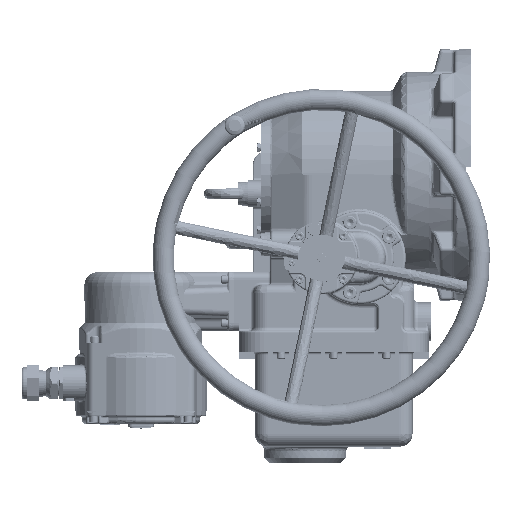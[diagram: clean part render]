
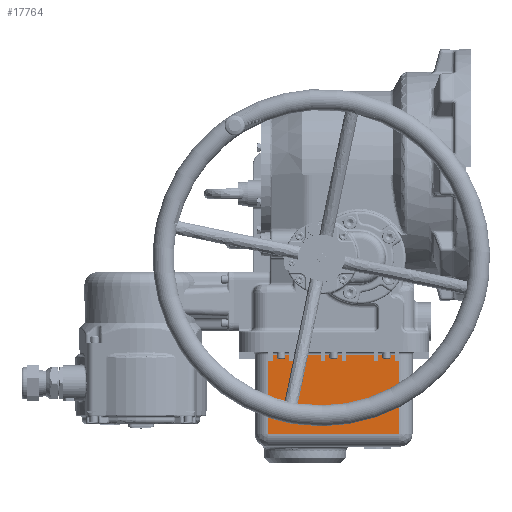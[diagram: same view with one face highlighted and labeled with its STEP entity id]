
A CAD part, left-side view. The second image highlights one B-rep face of the part: STEP entity #17764.
In plain terms, the highlighted planar face has unit normal (-1, 0, 0).
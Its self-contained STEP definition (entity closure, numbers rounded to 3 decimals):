
#17764=ADVANCED_FACE('',(#86320),#86322,.T.);
#86320=FACE_BOUND('',#86321,.T.);
#86321=EDGE_LOOP('',(#148087,#148088,#148089,#148090,#148091,#148092,#148093,#148094,
#148095,#148096,#148097,#148098,#148099,#148100,#148101,#148102,#148103,#148104,
#148105,#148106,#148107,#148108,#148109,#148110));
#86322=PLANE('',#86323);
#86323=AXIS2_PLACEMENT_3D('',#86324,#86325,#86326);
#86324=CARTESIAN_POINT('',(-106.,35.,-322.));
#86325=DIRECTION('',(-1.,0.,0.));
#86326=DIRECTION('',(0.,0.,-1.));
#148087=ORIENTED_EDGE('',*,*,#182301,.F.);
#148088=ORIENTED_EDGE('',*,*,#182302,.T.);
#148089=ORIENTED_EDGE('',*,*,#182303,.T.);
#148090=ORIENTED_EDGE('',*,*,#182304,.T.);
#148091=ORIENTED_EDGE('',*,*,#182305,.F.);
#148092=ORIENTED_EDGE('',*,*,#182306,.T.);
#148093=ORIENTED_EDGE('',*,*,#182307,.T.);
#148094=ORIENTED_EDGE('',*,*,#182308,.T.);
#148095=ORIENTED_EDGE('',*,*,#182309,.F.);
#148096=ORIENTED_EDGE('',*,*,#182310,.T.);
#148097=ORIENTED_EDGE('',*,*,#182311,.T.);
#148098=ORIENTED_EDGE('',*,*,#182312,.T.);
#148099=ORIENTED_EDGE('',*,*,#182313,.F.);
#148100=ORIENTED_EDGE('',*,*,#182314,.T.);
#148101=ORIENTED_EDGE('',*,*,#182315,.T.);
#148102=ORIENTED_EDGE('',*,*,#182316,.T.);
#148103=ORIENTED_EDGE('',*,*,#182317,.F.);
#148104=ORIENTED_EDGE('',*,*,#182318,.T.);
#148105=ORIENTED_EDGE('',*,*,#182319,.T.);
#148106=ORIENTED_EDGE('',*,*,#182320,.F.);
#148107=ORIENTED_EDGE('',*,*,#182139,.F.);
#148108=ORIENTED_EDGE('',*,*,#182299,.T.);
#148109=ORIENTED_EDGE('',*,*,#182321,.T.);
#148110=ORIENTED_EDGE('',*,*,#182322,.T.);
#182139=EDGE_CURVE('',#209253,#209256,#209258,.T.);
#182299=EDGE_CURVE('',#209253,#209534,#209536,.T.);
#182301=EDGE_CURVE('',#209538,#209539,#209540,.T.);
#182302=EDGE_CURVE('',#209538,#209541,#209542,.T.);
#182303=EDGE_CURVE('',#209541,#209543,#209544,.T.);
#182304=EDGE_CURVE('',#209543,#209545,#209546,.T.);
#182305=EDGE_CURVE('',#209547,#209545,#209548,.T.);
#182306=EDGE_CURVE('',#209547,#209549,#209550,.T.);
#182307=EDGE_CURVE('',#209549,#209551,#209552,.T.);
#182308=EDGE_CURVE('',#209551,#209553,#209554,.T.);
#182309=EDGE_CURVE('',#209555,#209553,#209556,.T.);
#182310=EDGE_CURVE('',#209555,#209557,#209558,.T.);
#182311=EDGE_CURVE('',#209557,#209559,#209560,.T.);
#182312=EDGE_CURVE('',#209559,#209561,#209562,.T.);
#182313=EDGE_CURVE('',#209563,#209561,#209564,.T.);
#182314=EDGE_CURVE('',#209563,#209565,#209566,.T.);
#182315=EDGE_CURVE('',#209565,#209567,#209568,.T.);
#182316=EDGE_CURVE('',#209567,#209569,#209570,.T.);
#182317=EDGE_CURVE('',#209571,#209569,#209572,.T.);
#182318=EDGE_CURVE('',#209571,#209573,#209574,.T.);
#182319=EDGE_CURVE('',#209573,#209575,#209576,.T.);
#182320=EDGE_CURVE('',#209256,#209575,#209577,.T.);
#182321=EDGE_CURVE('',#209534,#209578,#209579,.T.);
#182322=EDGE_CURVE('',#209578,#209539,#209580,.T.);
#209253=VERTEX_POINT('',#273061);
#209256=VERTEX_POINT('',#273070);
#209258=LINE('',#273075,#273076);
#209534=VERTEX_POINT('',#273686);
#209536=LINE('',#273690,#273691);
#209538=VERTEX_POINT('',#273696);
#209539=VERTEX_POINT('',#273697);
#209540=LINE('',#273698,#273699);
#209541=VERTEX_POINT('',#273701);
#209542=LINE('',#273702,#273703);
#209543=VERTEX_POINT('',#273705);
#209544=LINE('',#273706,#273707);
#209545=VERTEX_POINT('',#273709);
#209546=LINE('',#273710,#273711);
#209547=VERTEX_POINT('',#273713);
#209548=LINE('',#273714,#273715);
#209549=VERTEX_POINT('',#273717);
#209550=LINE('',#273718,#273719);
#209551=VERTEX_POINT('',#273721);
#209552=LINE('',#273722,#273723);
#209553=VERTEX_POINT('',#273725);
#209554=LINE('',#273726,#273727);
#209555=VERTEX_POINT('',#273729);
#209556=LINE('',#273730,#273731);
#209557=VERTEX_POINT('',#273733);
#209558=LINE('',#273734,#273735);
#209559=VERTEX_POINT('',#273737);
#209560=LINE('',#273738,#273739);
#209561=VERTEX_POINT('',#273741);
#209562=LINE('',#273742,#273743);
#209563=VERTEX_POINT('',#273745);
#209564=LINE('',#273746,#273747);
#209565=VERTEX_POINT('',#273749);
#209566=LINE('',#273750,#273751);
#209567=VERTEX_POINT('',#273753);
#209568=LINE('',#273754,#273755);
#209569=VERTEX_POINT('',#273757);
#209570=LINE('',#273758,#273759);
#209571=VERTEX_POINT('',#273761);
#209572=LINE('',#273762,#273763);
#209573=VERTEX_POINT('',#273765);
#209574=LINE('',#273766,#273767);
#209575=VERTEX_POINT('',#273769);
#209576=LINE('',#273770,#273771);
#209577=LINE('',#273773,#273774);
#209578=VERTEX_POINT('',#273776);
#209579=LINE('',#273777,#273778);
#209580=LINE('',#273780,#273781);
#273061=CARTESIAN_POINT('',(-106.,35.,-307.));
#273070=CARTESIAN_POINT('',(-106.,190.,-307.));
#273075=CARTESIAN_POINT('',(-106.,35.,-307.));
#273076=VECTOR('',#273077,1.);
#273077=DIRECTION('',(0.,1.,0.));
#273686=CARTESIAN_POINT('',(-106.,35.,-220.));
#273690=CARTESIAN_POINT('',(-106.,35.,-307.));
#273691=VECTOR('',#273692,1.);
#273692=DIRECTION('',(0.,0.,1.));
#273696=CARTESIAN_POINT('',(-106.,60.,-213.));
#273697=CARTESIAN_POINT('',(-106.,40.,-213.));
#273698=CARTESIAN_POINT('',(-106.,60.,-213.));
#273699=VECTOR('',#273700,1.);
#273700=DIRECTION('',(0.,-1.,0.));
#273701=CARTESIAN_POINT('',(-106.,60.,-220.));
#273702=CARTESIAN_POINT('',(-106.,60.,-213.));
#273703=VECTOR('',#273704,1.);
#273704=DIRECTION('',(0.,0.,-1.));
#273705=CARTESIAN_POINT('',(-106.,65.,-220.));
#273706=CARTESIAN_POINT('',(-106.,60.,-220.));
#273707=VECTOR('',#273708,1.);
#273708=DIRECTION('',(0.,1.,0.));
#273709=CARTESIAN_POINT('',(-106.,65.,-213.));
#273710=CARTESIAN_POINT('',(-106.,65.,-220.));
#273711=VECTOR('',#273712,1.);
#273712=DIRECTION('',(0.,0.,1.));
#273713=CARTESIAN_POINT('',(-106.,97.5,-213.));
#273714=CARTESIAN_POINT('',(-106.,97.5,-213.));
#273715=VECTOR('',#273716,1.);
#273716=DIRECTION('',(0.,-1.,0.));
#273717=CARTESIAN_POINT('',(-106.,97.5,-220.));
#273718=CARTESIAN_POINT('',(-106.,97.5,-213.));
#273719=VECTOR('',#273720,1.);
#273720=DIRECTION('',(0.,0.,-1.));
#273721=CARTESIAN_POINT('',(-106.,102.5,-220.));
#273722=CARTESIAN_POINT('',(-106.,97.5,-220.));
#273723=VECTOR('',#273724,1.);
#273724=DIRECTION('',(0.,1.,0.));
#273725=CARTESIAN_POINT('',(-106.,102.5,-213.));
#273726=CARTESIAN_POINT('',(-106.,102.5,-220.));
#273727=VECTOR('',#273728,1.);
#273728=DIRECTION('',(0.,0.,1.));
#273729=CARTESIAN_POINT('',(-106.,122.5,-213.));
#273730=CARTESIAN_POINT('',(-106.,122.5,-213.));
#273731=VECTOR('',#273732,1.);
#273732=DIRECTION('',(0.,-1.,0.));
#273733=CARTESIAN_POINT('',(-106.,122.5,-220.));
#273734=CARTESIAN_POINT('',(-106.,122.5,-213.));
#273735=VECTOR('',#273736,1.);
#273736=DIRECTION('',(0.,0.,-1.));
#273737=CARTESIAN_POINT('',(-106.,127.5,-220.));
#273738=CARTESIAN_POINT('',(-106.,122.5,-220.));
#273739=VECTOR('',#273740,1.);
#273740=DIRECTION('',(0.,1.,0.));
#273741=CARTESIAN_POINT('',(-106.,127.5,-213.));
#273742=CARTESIAN_POINT('',(-106.,127.5,-220.));
#273743=VECTOR('',#273744,1.);
#273744=DIRECTION('',(0.,0.,1.));
#273745=CARTESIAN_POINT('',(-106.,160.,-213.));
#273746=CARTESIAN_POINT('',(-106.,160.,-213.));
#273747=VECTOR('',#273748,1.);
#273748=DIRECTION('',(0.,-1.,0.));
#273749=CARTESIAN_POINT('',(-106.,160.,-220.));
#273750=CARTESIAN_POINT('',(-106.,160.,-213.));
#273751=VECTOR('',#273752,1.);
#273752=DIRECTION('',(0.,0.,-1.));
#273753=CARTESIAN_POINT('',(-106.,165.,-220.));
#273754=CARTESIAN_POINT('',(-106.,160.,-220.));
#273755=VECTOR('',#273756,1.);
#273756=DIRECTION('',(0.,1.,0.));
#273757=CARTESIAN_POINT('',(-106.,165.,-213.));
#273758=CARTESIAN_POINT('',(-106.,165.,-220.));
#273759=VECTOR('',#273760,1.);
#273760=DIRECTION('',(0.,0.,1.));
#273761=CARTESIAN_POINT('',(-106.,185.,-213.));
#273762=CARTESIAN_POINT('',(-106.,185.,-213.));
#273763=VECTOR('',#273764,1.);
#273764=DIRECTION('',(0.,-1.,0.));
#273765=CARTESIAN_POINT('',(-106.,185.,-220.));
#273766=CARTESIAN_POINT('',(-106.,185.,-213.));
#273767=VECTOR('',#273768,1.);
#273768=DIRECTION('',(0.,0.,-1.));
#273769=CARTESIAN_POINT('',(-106.,190.,-220.));
#273770=CARTESIAN_POINT('',(-106.,185.,-220.));
#273771=VECTOR('',#273772,1.);
#273772=DIRECTION('',(0.,1.,0.));
#273773=CARTESIAN_POINT('',(-106.,190.,-307.));
#273774=VECTOR('',#273775,1.);
#273775=DIRECTION('',(0.,0.,1.));
#273776=CARTESIAN_POINT('',(-106.,40.,-220.));
#273777=CARTESIAN_POINT('',(-106.,35.,-220.));
#273778=VECTOR('',#273779,1.);
#273779=DIRECTION('',(0.,1.,0.));
#273780=CARTESIAN_POINT('',(-106.,40.,-220.));
#273781=VECTOR('',#273782,1.);
#273782=DIRECTION('',(0.,0.,1.));
